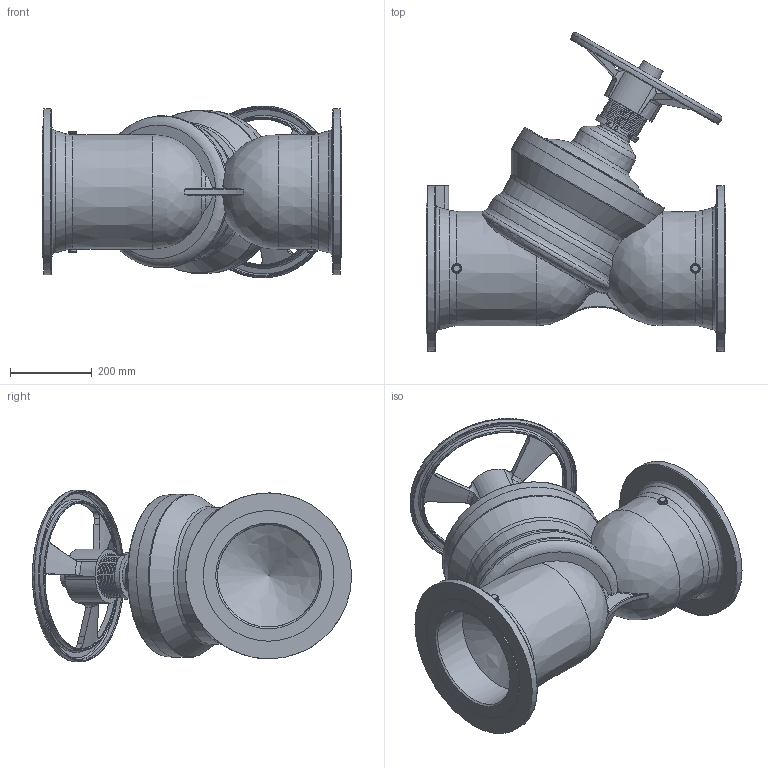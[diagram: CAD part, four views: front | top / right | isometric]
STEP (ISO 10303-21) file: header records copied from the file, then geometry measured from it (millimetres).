
FILE_DESCRIPTION((''),'2;1');
FILE_NAME('P:\Fastrack\53972_CRANE 3D\DM921-941\WORKSPACE\DM921-941\DM921_DN250\DM921_DN250.stp','2011-03-01T12:32:21',('btaylor'),(''),'Autodesk Inventor 2008','Autodesk Inventor 2008','');
FILE_SCHEMA(('AUTOMOTIVE_DESIGN { 1 0 10303 214 1 1 1 1 }'));
Length unit declared in the file: millimetre
Products named in the file (1): DM921_DN250
Bounding box: 730 x 778.95 x 419.26 mm (x, y, z)
Volume: 54537532.3 mm3; surface area: 2011949 mm2
Topology: 2 solids, 3 shells, 799 faces, 2075 edges, 1356 vertices
Faces by surface type: plane 301, bspline 298, cylinder 130, cone 43, torus 27
Full cylindrical faces by diameter (mm): 8 x2, 12 x12, 20 x4, 32 x1, 32.7 x1, 45.8 x1, 46.2 x1, 46.8 x1, 50 x1, 63 x1, 84 x1, 98 x1, 114 x1, 122 x1, 319 x1, 319.004 x1, 366.489 x1
Entity records: 87183 total; most frequent: CARTESIAN_POINT 69491, ORIENTED_EDGE 3884, DIRECTION 2526, EDGE_CURVE 1942, VERTEX_POINT 1326, EDGE_LOOP 984, AXIS2_PLACEMENT_3D 872, STYLED_ITEM 800
